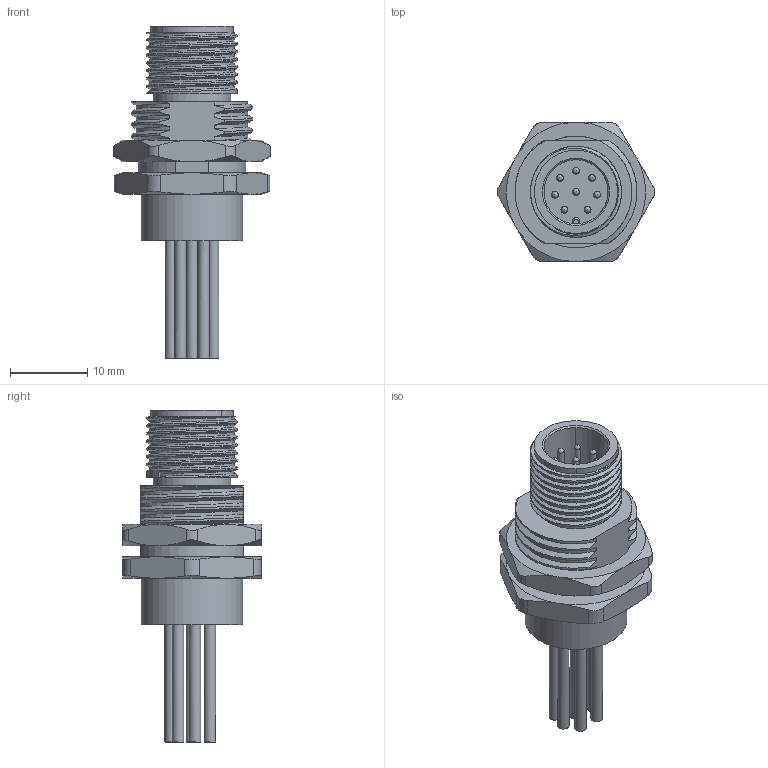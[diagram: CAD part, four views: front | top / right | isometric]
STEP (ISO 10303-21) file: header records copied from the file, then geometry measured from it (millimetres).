
FILE_DESCRIPTION(/* description */ (''),/* implementation_level */ '2;1');
FILE_NAME(/* name */ 'FL-M12-8MB-L.stp',/* time_stamp */ '2022-01-07T14:02:16+08:00',/* author */ (''),/* organization */ (''),/* preprocessor_version */ 'ST-DEVELOPER v16.7',/* originating_system */ 'SIEMENS PLM Software NX 12.0',/* authorisation */ '');
FILE_SCHEMA (('AP203_CONFIGURATION_CONTROLLED_3D_DESIGN_OF_MECHANICAL_PARTS_AND_ASSEMBLIES_MIM_LF { 1 0 10303 403 2 1 2}'));
Length unit declared in the file: millimetre
Products named in the file (1): Admi48085487bn7h
Bounding box: 20.32 x 18 x 43 mm (x, y, z)
Volume: 3972.9 mm3; surface area: 4150.1 mm2
Topology: 1 solids, 11 shells, 278 faces, 721 edges, 474 vertices
Faces by surface type: cylinder 115, plane 77, bspline 39, cone 34, sphere 8, torus 5
Full cylindrical faces by diameter (mm): 0.8 x16, 0.9 x16, 1.5 x8, 9.8 x1, 10 x1, 13.2 x1
Entity records: 20867 total; most frequent: CARTESIAN_POINT 14845, ORIENTED_EDGE 1242, DIRECTION 1066, EDGE_CURVE 621, AXIS2_PLACEMENT_3D 449, VERTEX_POINT 433, EDGE_LOOP 374, ADVANCED_FACE 278
